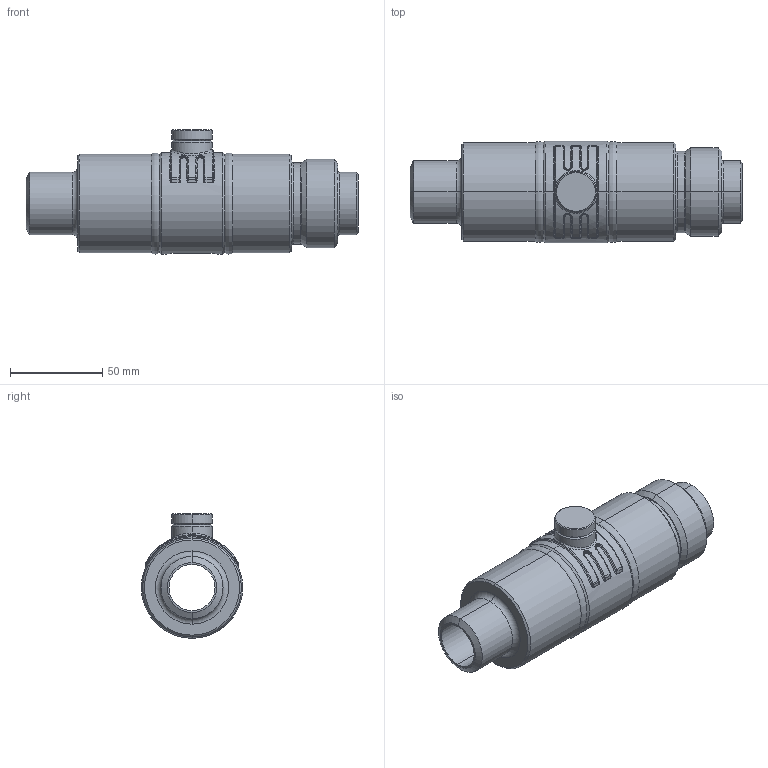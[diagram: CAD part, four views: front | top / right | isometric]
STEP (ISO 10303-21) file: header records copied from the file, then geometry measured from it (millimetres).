
FILE_DESCRIPTION((''),'2;1');
FILE_NAME('KHMO-AB-V-ISKT-025P040','2025-02-11T14:27:19',('jeitlers'),('KLINGER'),'CREO PARAMETRIC BY PTC INC, 2023014','CREO PARAMETRIC BY PTC INC, 2023014','');
FILE_SCHEMA(('CONFIG_CONTROL_DESIGN'));
Length unit declared in the file: millimetre
Products named in the file (1): KHMO-AB-V-ISKT-025P040
Bounding box: 180 x 55 x 67.5 mm (x, y, z)
Volume: 245990.1 mm3; surface area: 66537.6 mm2
Topology: 2 solids, 2 shells, 399 faces, 855 edges, 481 vertices
Faces by surface type: cylinder 117, torus 92, plane 72, cone 68, bspline 48, sphere 2
Entity records: 18601 total; most frequent: CARTESIAN_POINT 10038, DIRECTION 1924, ORIENTED_EDGE 1706, EDGE_CURVE 853, AXIS2_PLACEMENT_3D 838, CIRCLE 487, VERTEX_POINT 481, EDGE_LOOP 430
